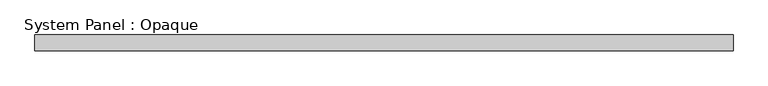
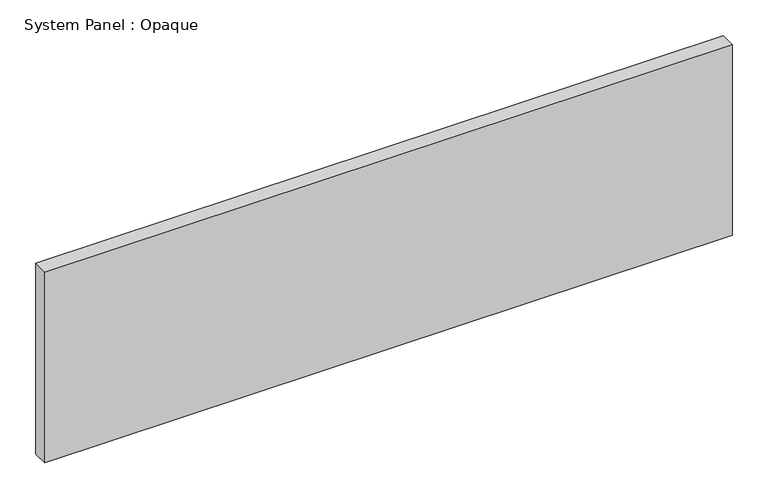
"""IFC4 building model written with IfcOpenShell, lengths in millimetres: plate geometry, System Panel : Opaque."""

from ifc_helpers import new_model, si_unit, origin, origin_with_axes, place, context, project, spatial, polyline, outline, extrude, source, transform, mapped, element, save


def system_panel_opaque_e4a811f1(model_context):
    return source(origin(), model_context, "Body", "SweptSolid", [
        extrude(outline(polyline([(554.226465, -12.5), (-554.226465, -12.5), (-554.226465, 12.5), (554.226465, 12.5), (554.226465, -12.5)])), origin_with_axes(), (0.0, 0.0, 1.0), 325.0),
    ])


if __name__ == "__main__":
    model = new_model("IFC4")
    model_context = context("Model", 3, world=origin())
    ifc_project = project(units=[si_unit("LENGTHUNIT", "METRE", prefix="MILLI")], contexts=[model_context])
    site = spatial("IfcSite", under=ifc_project)
    building = spatial("IfcBuilding", under=site)
    placement = place(None, origin())
    system_panel_opaque_shape = system_panel_opaque_e4a811f1(model_context)
    element("IfcPlate", 1, ObjectType="System Panel : Opaque", at=placement, inside=building, context=model_context, shape_type="MappedRepresentation", body=[
        mapped(system_panel_opaque_shape, transform((0.0, 0.0, 0.0), x_axis=(1.0, 0.0, 0.0), y_axis=(0.0, 1.0, 0.0), z_axis=(0.0, 0.0, 1.0))),
    ])
    save(model, "model.ifc")
